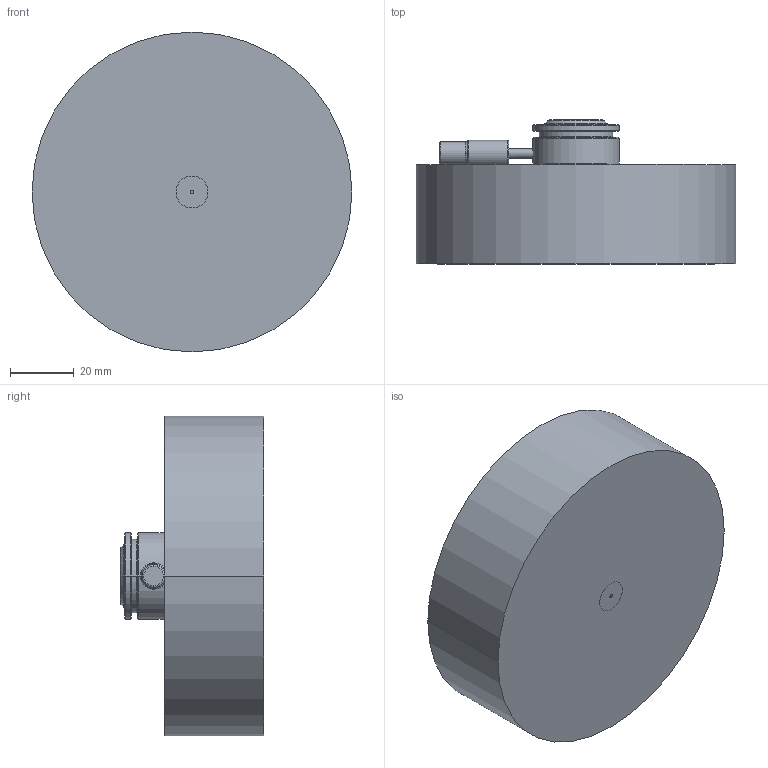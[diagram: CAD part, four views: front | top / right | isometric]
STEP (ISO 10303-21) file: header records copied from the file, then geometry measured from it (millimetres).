
FILE_DESCRIPTION((''),'2;1');
FILE_NAME('M27N102.stp','2020-09-17T12:49:10',(''),(''),'AutoCAD STEP 2000i','AutoCAD 2000i',', , ');
FILE_SCHEMA(('CONFIG_CONTROL_DESIGN'));
Length unit declared in the file: millimetre
Products named in the file (3): DRAWING1; NOZZLE M102N27; MOLD BODY N27
Assembly tree (2 placements, depth 2):
  DRAWING1
    NOZZLE M102N27
    MOLD BODY N27
Bounding box: 100 x 45 x 100 mm (x, y, z)
Volume: 249032.9 mm3; surface area: 31693.6 mm2
Topology: 2 solids, 2 shells, 105 faces, 247 edges, 155 vertices
Faces by surface type: cylinder 36, cone 32, plane 15, torus 12, bspline 10
Entity records: 3608 total; most frequent: CARTESIAN_POINT 963, DIRECTION 611, ORIENTED_EDGE 490, AXIS2_PLACEMENT_3D 271, EDGE_CURVE 245, CIRCLE 173, VERTEX_POINT 155, EDGE_LOOP 118
